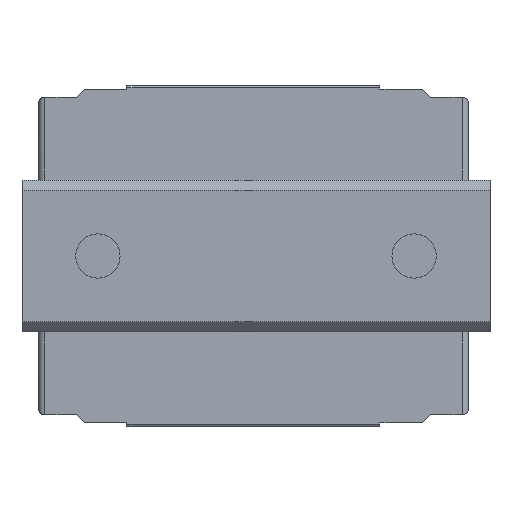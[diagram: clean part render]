
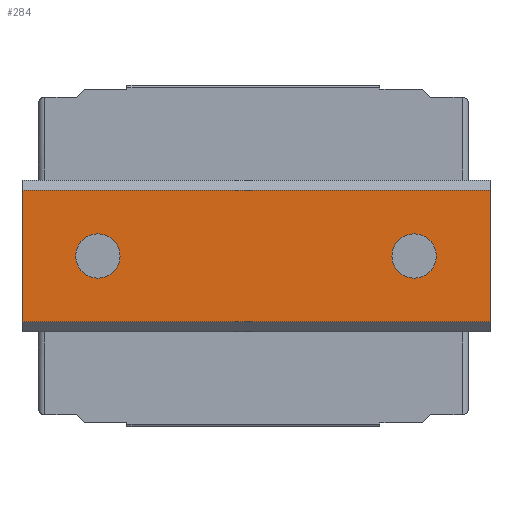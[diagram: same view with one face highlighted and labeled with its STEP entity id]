
A CAD part, front view. The second image highlights one B-rep face of the part: STEP entity #284.
In plain terms, the highlighted planar face has unit normal (0, -1, 0).
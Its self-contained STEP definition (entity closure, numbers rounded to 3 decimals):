
#284 = ADVANCED_FACE( '', ( #599, #600, #601 ), #602, .F. );
#599 = FACE_BOUND( '', #955, .T. );
#600 = FACE_BOUND( '', #956, .T. );
#601 = FACE_OUTER_BOUND( '', #957, .T. );
#602 = PLANE( '', #958 );
#955 = EDGE_LOOP( '', ( #1630 ) );
#956 = EDGE_LOOP( '', ( #1631 ) );
#957 = EDGE_LOOP( '', ( #1632, #1633, #1634, #1635 ) );
#958 = AXIS2_PLACEMENT_3D( '', #1636, #1637, #1638 );
#1630 = ORIENTED_EDGE( '', *, *, #2310, .T. );
#1631 = ORIENTED_EDGE( '', *, *, #2311, .T. );
#1632 = ORIENTED_EDGE( '', *, *, #2312, .T. );
#1633 = ORIENTED_EDGE( '', *, *, #2117, .F. );
#1634 = ORIENTED_EDGE( '', *, *, #2294, .F. );
#1635 = ORIENTED_EDGE( '', *, *, #2313, .T. );
#1636 = CARTESIAN_POINT( '', ( 18.5, 0., 5.2 ) );
#1637 = DIRECTION( '', ( 0., 1., 0. ) );
#1638 = DIRECTION( '', ( 0., 0., 1. ) );
#2117 = EDGE_CURVE( '', #2532, #2527, #2534, .T. );
#2294 = EDGE_CURVE( '', #2810, #2532, #2812, .T. );
#2310 = EDGE_CURVE( '', #2831, #2831, #2832, .T. );
#2311 = EDGE_CURVE( '', #2833, #2833, #2834, .T. );
#2312 = EDGE_CURVE( '', #2835, #2527, #2836, .T. );
#2313 = EDGE_CURVE( '', #2810, #2835, #2837, .T. );
#2527 = VERTEX_POINT( '', #3099 );
#2532 = VERTEX_POINT( '', #3106 );
#2534 = LINE( '', #3109, #3110 );
#2810 = VERTEX_POINT( '', #3480 );
#2812 = LINE( '', #3483, #3484 );
#2831 = VERTEX_POINT( '', #3507 );
#2832 = CIRCLE( '', #3508, 1.75 );
#2833 = VERTEX_POINT( '', #3509 );
#2834 = CIRCLE( '', #3510, 1.75 );
#2835 = VERTEX_POINT( '', #3511 );
#2836 = LINE( '', #3512, #3513 );
#2837 = LINE( '', #3514, #3515 );
#3099 = CARTESIAN_POINT( '', ( -18.5, 0., -5.2 ) );
#3106 = CARTESIAN_POINT( '', ( 18.5, 0., -5.2 ) );
#3109 = CARTESIAN_POINT( '', ( 18.5, 0., -5.2 ) );
#3110 = VECTOR( '', #3736, 1000. );
#3480 = CARTESIAN_POINT( '', ( 18.5, 0., 5.2 ) );
#3483 = CARTESIAN_POINT( '', ( 18.5, 0., 5.2 ) );
#3484 = VECTOR( '', #3964, 1000. );
#3507 = CARTESIAN_POINT( '', ( 12.5, 0., 1.75 ) );
#3508 = AXIS2_PLACEMENT_3D( '', #3984, #3985, #3986 );
#3509 = CARTESIAN_POINT( '', ( -12.5, 0., 1.75 ) );
#3510 = AXIS2_PLACEMENT_3D( '', #3987, #3988, #3989 );
#3511 = CARTESIAN_POINT( '', ( -18.5, 0., 5.2 ) );
#3512 = CARTESIAN_POINT( '', ( -18.5, 0., 5.2 ) );
#3513 = VECTOR( '', #3990, 1000. );
#3514 = CARTESIAN_POINT( '', ( 18.5, 0., 5.2 ) );
#3515 = VECTOR( '', #3991, 1000. );
#3736 = DIRECTION( '', ( -1., 0., 0. ) );
#3964 = DIRECTION( '', ( 0., 0., -1. ) );
#3984 = CARTESIAN_POINT( '', ( 12.5, 0., 0. ) );
#3985 = DIRECTION( '', ( 0., 1., 0. ) );
#3986 = DIRECTION( '', ( 0., 0., 1. ) );
#3987 = CARTESIAN_POINT( '', ( -12.5, 0., 0. ) );
#3988 = DIRECTION( '', ( 0., 1., 0. ) );
#3989 = DIRECTION( '', ( 0., 0., 1. ) );
#3990 = DIRECTION( '', ( 0., 0., -1. ) );
#3991 = DIRECTION( '', ( -1., 0., 0. ) );
